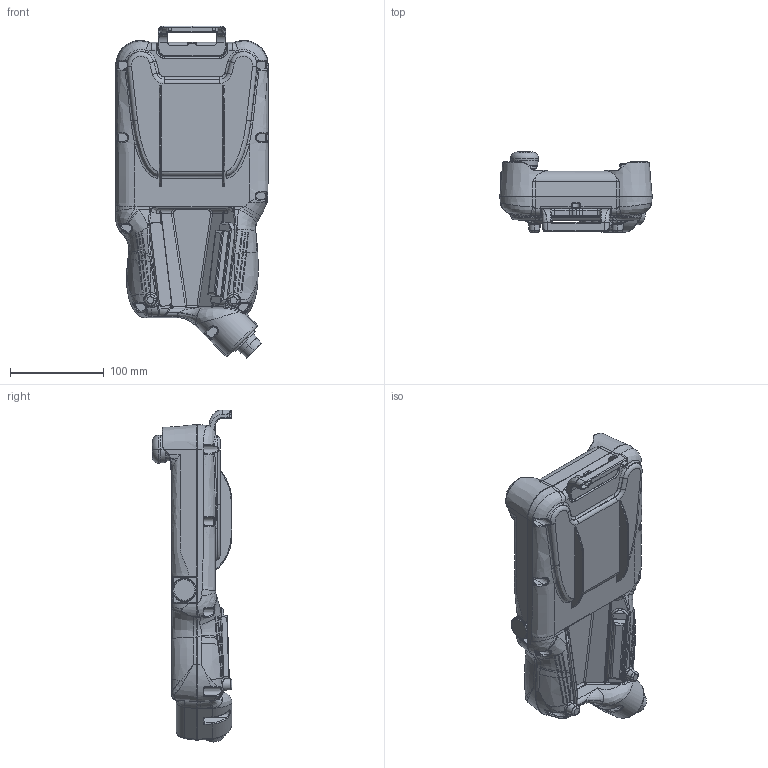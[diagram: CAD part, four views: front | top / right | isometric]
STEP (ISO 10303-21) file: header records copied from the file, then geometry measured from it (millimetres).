
FILE_DESCRIPTION(('CATIA V5 STEP Exchange'),'2;1');
FILE_NAME('X:\ROBOTDEV\DOCS\要素開発\hardware\FD18\04_TP\資料（ダイヘン）_DXF_STEP\STEPデータ\FD19TP_総組_23.01.06_(中身なし)\FD19_TP_light.stp','2023-01-06T06:45:00+00:00',('none'),('none'),'CATIA Version 5-6 Release 2016 SP3','CATIA V5 STEP AP203','none');
FILE_SCHEMA(('CONFIG_CONTROL_DESIGN'));
Products named in the file (1): FD19_TP_light
Bounding box: 163 x 85.25 x 355.11 mm (x, y, z)
Volume: 2085805.2 mm3; surface area: 164437.4 mm2
Topology: 1 solids, 3 shells, 2344 faces, 7980 edges, 5632 vertices
Faces by surface type: bspline 906, cylinder 523, plane 448, cone 226, torus 215, sphere 18, revolution 8
Entity records: 146689 total; most frequent: CARTESIAN_POINT 90163, ORIENTED_EDGE 15846, EDGE_CURVE 7923, VERTEX_POINT 5632, DIRECTION 5555, B_SPLINE_CURVE_WITH_KNOTS 5208, AXIS2_PLACEMENT_3D 2661, EDGE_LOOP 2399
